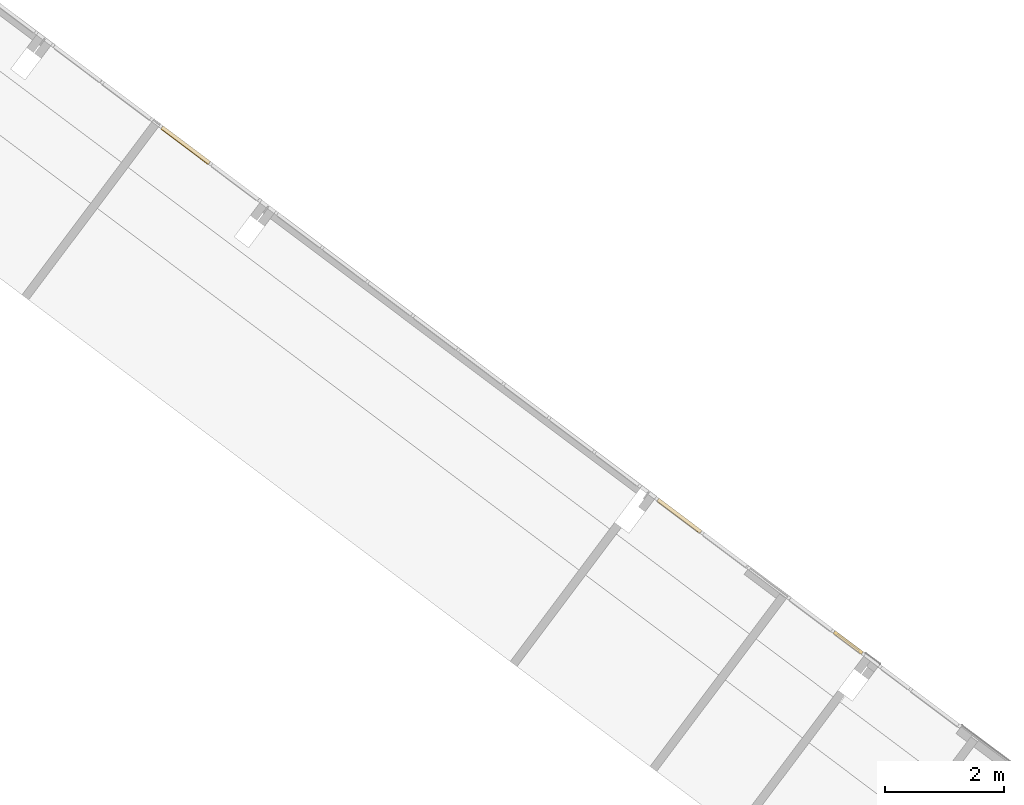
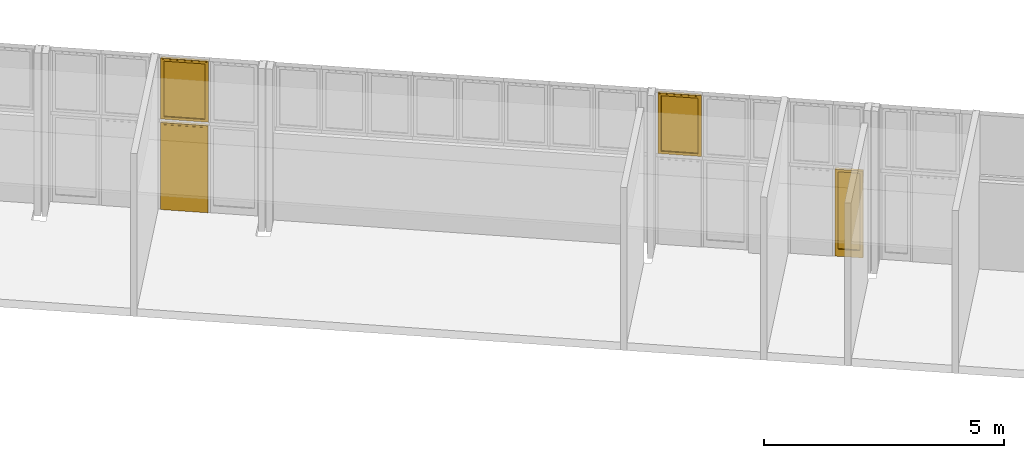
# One storey, part 14 of 18: 3 windows, 1 door, 3 elements without a shape of their own.
"""IFC2X3 building model written with IfcOpenShell, lengths in metres."""

from ifc_helpers import new_model, entity, si_unit, converted_unit, derived_unit, direction, frame, origin, place, context, subcontext, project, spatial, faceted_brep, source, transform, mapped, material, material_list, type_object, type_shapes, element, aggregate, save


model = new_model("IFC2X3")

# Units and contexts
model_context = context("Model", 3, precision=1e-05, world=origin(), true_north=direction((6.123031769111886e-17, 1.0)))
body_context = subcontext(model_context, "Body", "Model", "MODEL_VIEW")
ifc_project = project(units=[si_unit("LENGTHUNIT", "METRE"), si_unit("AREAUNIT", "SQUARE_METRE"), si_unit("VOLUMEUNIT", "CUBIC_METRE"), converted_unit("PLANEANGLEUNIT", "DEGREE", entity("IfcRatioMeasure", 0.017453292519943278), si_unit("PLANEANGLEUNIT", "RADIAN"), dimensions=[0, 0, 0, 0, 0, 0, 0]), si_unit("MASSUNIT", "GRAM", prefix="KILO"), derived_unit("MASSDENSITYUNIT", [(si_unit("MASSUNIT", "GRAM", prefix="KILO"), 1), (si_unit("LENGTHUNIT", "METRE"), -3)]), derived_unit("IONCONCENTRATIONUNIT", [(si_unit("MASSUNIT", "GRAM", prefix="KILO"), 1), (si_unit("LENGTHUNIT", "METRE"), -3)]), derived_unit("MOMENTOFINERTIAUNIT", [(si_unit("LENGTHUNIT", "METRE"), 4)]), si_unit("TIMEUNIT", "SECOND"), si_unit("FREQUENCYUNIT", "HERTZ"), si_unit("THERMODYNAMICTEMPERATUREUNIT", "DEGREE_CELSIUS"), derived_unit("THERMALTRANSMITTANCEUNIT", [(si_unit("MASSUNIT", "GRAM", prefix="KILO"), 1), (si_unit("THERMODYNAMICTEMPERATUREUNIT", "KELVIN"), -1), (si_unit("TIMEUNIT", "SECOND"), -3)]), derived_unit("THERMALCONDUCTANCEUNIT", [(si_unit("MASSUNIT", "GRAM", prefix="KILO"), 1), (si_unit("THERMODYNAMICTEMPERATUREUNIT", "KELVIN"), -1), (si_unit("TIMEUNIT", "SECOND"), -3), (si_unit("LENGTHUNIT", "METRE"), 1)]), derived_unit("VOLUMETRICFLOWRATEUNIT", [(si_unit("LENGTHUNIT", "METRE"), 3), (si_unit("TIMEUNIT", "SECOND"), -1)]), derived_unit("MASSFLOWRATEUNIT", [(si_unit("MASSUNIT", "GRAM", prefix="KILO"), 1), (si_unit("TIMEUNIT", "SECOND"), -1)]), derived_unit("ROTATIONALFREQUENCYUNIT", [(si_unit("TIMEUNIT", "SECOND"), -1)]), si_unit("ELECTRICCURRENTUNIT", "AMPERE"), si_unit("ELECTRICVOLTAGEUNIT", "VOLT"), si_unit("POWERUNIT", "WATT"), si_unit("FORCEUNIT", "NEWTON", prefix="KILO"), si_unit("ILLUMINANCEUNIT", "LUX"), si_unit("LUMINOUSFLUXUNIT", "LUMEN"), si_unit("LUMINOUSINTENSITYUNIT", "CANDELA"), derived_unit("USERDEFINED", [(si_unit("MASSUNIT", "GRAM", prefix="KILO"), -1), (si_unit("LENGTHUNIT", "METRE"), -2), (si_unit("TIMEUNIT", "SECOND"), 3), (si_unit("LUMINOUSFLUXUNIT", "LUMEN"), 1)]), derived_unit("USERDEFINED", [(si_unit("MASSUNIT", "GRAM", prefix="KILO"), 1), (si_unit("TIMEUNIT", "SECOND"), -3), (si_unit("LENGTHUNIT", "METRE"), 3), (si_unit("ELECTRICCURRENTUNIT", "AMPERE"), -2)]), derived_unit("SOUNDPOWERUNIT", [(si_unit("MASSUNIT", "GRAM", prefix="KILO"), 1), (si_unit("TIMEUNIT", "SECOND"), -3), (si_unit("LENGTHUNIT", "METRE"), 2)]), derived_unit("SOUNDPRESSUREUNIT", [(si_unit("MASSUNIT", "GRAM", prefix="KILO"), 1), (si_unit("LENGTHUNIT", "METRE"), -1), (si_unit("TIMEUNIT", "SECOND"), -2)]), derived_unit("LINEARVELOCITYUNIT", [(si_unit("LENGTHUNIT", "METRE"), 1), (si_unit("TIMEUNIT", "SECOND"), -1)]), si_unit("PRESSUREUNIT", "PASCAL"), derived_unit("USERDEFINED", [(si_unit("MASSUNIT", "GRAM", prefix="KILO"), 1), (si_unit("LENGTHUNIT", "METRE"), -2), (si_unit("TIMEUNIT", "SECOND"), -2)]), derived_unit("LINEARFORCEUNIT", [(si_unit("MASSUNIT", "GRAM", prefix="KILO"), 1), (si_unit("TIMEUNIT", "SECOND"), -2)]), derived_unit("PLANARFORCEUNIT", [(si_unit("MASSUNIT", "GRAM", prefix="KILO"), 1), (si_unit("LENGTHUNIT", "METRE"), -1), (si_unit("TIMEUNIT", "SECOND"), -2)]), derived_unit("SPECIFICHEATCAPACITYUNIT", [(si_unit("THERMODYNAMICTEMPERATUREUNIT", "KELVIN"), -1), (si_unit("LENGTHUNIT", "METRE"), 2), (si_unit("TIMEUNIT", "SECOND"), -2)]), derived_unit("HEATINGVALUEUNIT", [(si_unit("LENGTHUNIT", "METRE"), 2), (si_unit("TIMEUNIT", "SECOND"), -2)]), derived_unit("VAPORPERMEABILITYUNIT", [(si_unit("LENGTHUNIT", "METRE"), -1), (si_unit("TIMEUNIT", "SECOND"), 1)]), derived_unit("DYNAMICVISCOSITYUNIT", [(si_unit("MASSUNIT", "GRAM", prefix="KILO"), 1), (si_unit("TIMEUNIT", "SECOND"), -1), (si_unit("LENGTHUNIT", "METRE"), -1)]), derived_unit("THERMALEXPANSIONCOEFFICIENTUNIT", [(si_unit("THERMODYNAMICTEMPERATUREUNIT", "KELVIN"), -1)]), derived_unit("MODULUSOFELASTICITYUNIT", [(si_unit("MASSUNIT", "GRAM", prefix="KILO"), 1), (si_unit("LENGTHUNIT", "METRE"), -1), (si_unit("TIMEUNIT", "SECOND"), -2)]), derived_unit("ISOTHERMALMOISTURECAPACITYUNIT", [(si_unit("LENGTHUNIT", "METRE"), 3), (si_unit("MASSUNIT", "GRAM", prefix="KILO"), -1)]), derived_unit("MOISTUREDIFFUSIVITYUNIT", [(si_unit("TIMEUNIT", "SECOND"), -1), (si_unit("LENGTHUNIT", "METRE"), 2)])], contexts=[model_context])

# Site, building, storey
site_placement = place(None, frame((0.0, 0.0, 235.0), z_axis=(0.0, 0.0, 1.0), x_axis=(-0.7996477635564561, 0.6004693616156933, 0.0)))
site = spatial("IfcSite", under=ifc_project, at=site_placement, Name="Default", CompositionType="ELEMENT")
building_placement = place(site_placement, origin())
building = spatial("IfcBuilding", under=site, at=building_placement, CompositionType="ELEMENT")
storey_placement = place(building_placement, frame((0.0, 0.0, -4.459999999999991)))
storey = spatial("IfcBuildingStorey", under=building, at=storey_placement, Name="PS1- Vestuari", CompositionType="ELEMENT", Elevation=-4.459999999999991)

# Curtain wall, windows
curtain_wall_type = type_object("IfcCurtainWallType", Name="Muro cortina:MC- EXT- AL6", PredefinedType="NOTDEFINED")
curtain_wall_1_placement = place(storey_placement, frame((0.0, 0.0, 4.459999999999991)))
curtain_wall_1 = element("IfcCurtainWall", 1, at=curtain_wall_1_placement, inside=storey, type_object=curtain_wall_type, Name="Muro cortina:MC- EXT- AL6", ObjectType="Muro cortina:MC- EXT- AL6")
ifc_material_1 = material(Name="_Vidre")
ifc_material_2 = material(Name="_Alumini- T1- Perfil")
ifc_material_list_1 = material_list([ifc_material_1, ifc_material_2])
window_style_1 = type_object("IfcWindowStyle", Name="MC- Alu- Conjunt finestra basculant- 68x68 cm:MC- Alu- Conjunt finestra basculant- 68x68 cm", ConstructionType="NOTDEFINED", OperationType="NOTDEFINED", ParameterTakesPrecedence=False, Sizeable=False, material=ifc_material_list_1)
shared_shape_1 = source(origin(), body_context, "Body", "Brep", [
    faceted_brep([(0.40141171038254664, -0.035598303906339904, 0.051999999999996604), (-0.4014117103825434, -0.035598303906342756, 0.051999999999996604), (-0.4014117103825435, -0.011598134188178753, 0.051999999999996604), (0.4014117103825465, -0.011598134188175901, 0.051999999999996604), (0.40141171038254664, -0.035598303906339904, 1.4953027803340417), (0.4014117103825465, -0.011598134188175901, 1.4953027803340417), (-0.4014117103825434, -0.011598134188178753, 1.4953027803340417), (-0.4014117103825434, -0.035598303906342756, 1.4953027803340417)], [[[0, 1, 2, 3]], [[4, 0, 3, 5]], [[5, 3, 2, 6]], [[6, 2, 1, 7]], [[7, 1, 0, 4]], [[4, 5, 6, 7]]]),
    faceted_brep([(-0.3857108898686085, -0.009998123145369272, 1.4796019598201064), (-0.3857108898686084, -0.009998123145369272, 0.06789804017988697), (-0.3857108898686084, -0.0079981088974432, 0.06789804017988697), (-0.3857108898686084, -0.0079981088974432, 1.4796019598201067), (-0.4146089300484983, -0.007998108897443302, 1.5084999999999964), (0.4146089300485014, -0.007998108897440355, 1.5084999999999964), (0.4146089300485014, -0.007998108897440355, 0.03899999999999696), (-0.4146089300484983, -0.007998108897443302, 0.03899999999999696), (0.3857108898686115, -0.007998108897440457, 1.4796019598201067), (0.3857108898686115, -0.007998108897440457, 0.06789804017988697), (0.3857108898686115, -0.00999812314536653, 0.06789804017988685), (0.38571088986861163, -0.00999812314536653, 1.4796019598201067), (0.4014117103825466, -0.009998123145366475, 1.4953027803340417), (-0.4014117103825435, -0.009998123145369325, 1.4953027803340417), (-0.4014117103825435, -0.009998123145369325, 0.05219721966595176), (0.4014117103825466, -0.009998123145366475, 0.05219721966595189), (-0.4014117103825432, -0.040799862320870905, 1.4953027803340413), (-0.40141171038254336, -0.04079986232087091, 0.05219721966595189), (0.40141171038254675, -0.040799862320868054, 0.05219721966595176), (0.40141171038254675, -0.040799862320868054, 1.4953027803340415), (0.38571088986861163, -0.04079986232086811, 1.4796019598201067), (-0.38571088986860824, -0.04079986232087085, 1.4796019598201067), (-0.38571088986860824, -0.04079986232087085, 0.06789804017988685), (0.38571088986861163, -0.04079986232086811, 0.06789804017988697), (-0.3857108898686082, -0.06800005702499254, 1.4796019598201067), (-0.3857108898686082, -0.06800005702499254, 0.06789804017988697), (0.3857108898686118, -0.0680000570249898, 0.06789804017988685), (0.3857108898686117, -0.0680000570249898, 1.4796019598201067), (0.4321128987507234, -0.06800005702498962, 1.5260039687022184), (-0.4321128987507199, -0.0680000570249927, 1.5260039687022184), (-0.4321128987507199, -0.0680000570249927, 0.021496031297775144), (0.4321128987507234, -0.06800005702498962, 0.021496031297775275), (-0.4321128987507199, -0.06450003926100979, 1.5260039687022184), (-0.4321128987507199, -0.06450003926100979, 0.021496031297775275), (0.4321128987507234, -0.06450003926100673, 0.021496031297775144), (0.4321128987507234, -0.06450003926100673, 1.5260039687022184), (0.4146089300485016, -0.0645000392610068, 1.5084999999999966), (-0.4146089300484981, -0.06450003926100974, 1.5084999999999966), (-0.4146089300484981, -0.06450003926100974, 0.03899999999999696), (0.4146089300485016, -0.0645000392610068, 0.03899999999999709)], [[[0, 1, 2, 3]], [[4, 5, 6, 7], [8, 3, 2, 9]], [[1, 10, 9, 2]], [[0, 11, 10, 1], [12, 13, 14, 15]], [[16, 17, 14, 13]], [[17, 18, 15, 14]], [[16, 19, 18, 17], [20, 21, 22, 23]], [[24, 25, 22, 21]], [[25, 26, 23, 22]], [[24, 27, 26, 25], [28, 29, 30, 31]], [[32, 33, 30, 29]], [[33, 34, 31, 30]], [[32, 35, 34, 33], [36, 37, 38, 39]], [[4, 7, 38, 37]], [[7, 6, 39, 38]], [[10, 11, 8, 9]], [[18, 19, 12, 15]], [[26, 27, 20, 23]], [[34, 35, 28, 31]], [[6, 5, 36, 39]], [[11, 0, 3, 8]], [[19, 16, 13, 12]], [[27, 24, 21, 20]], [[35, 32, 29, 28]], [[5, 4, 37, 36]]], outer=[[True], [True, False], [True], [False, True], [True], [True], [True, False], [True], [True], [False, True], [True], [True], [True, False], [True], [True], [True], [True], [True], [True], [True], [True], [True], [True], [True], [True]]),
    faceted_brep([(0.39069318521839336, 0.0, 1.484693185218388), (0.39069318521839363, 0.0, 0.06280681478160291), (0.39069318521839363, -0.0040000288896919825, 0.06280681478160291), (0.39069318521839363, -0.0040000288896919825, 1.4846931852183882), (-0.39069318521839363, -0.0040000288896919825, 1.4846931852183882), (-0.39069318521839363, -0.0040000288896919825, 0.06280681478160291), (0.4260998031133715, -0.0040000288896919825, 1.5200998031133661), (-0.4260998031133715, -0.0040000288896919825, 1.5200998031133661), (-0.4260998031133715, -0.0040000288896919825, 0.02740019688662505), (0.4260998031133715, -0.0040000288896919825, 0.027400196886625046), (-0.39069318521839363, 0.0, 0.06280681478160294), (-0.39069318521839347, 0.0, 1.4846931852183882), (-0.45349999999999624, 0.0, 1.547499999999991), (0.45349999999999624, 0.0, 1.547499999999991), (0.45349999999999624, 0.0, 0.0), (-0.45349999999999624, 0.0, 0.0), (0.45349999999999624, -0.05999999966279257, 1.547499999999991), (0.45349999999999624, -0.05999999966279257, 0.0), (-0.45349999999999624, -0.05999999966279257, 0.0), (-0.45349999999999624, -0.05999999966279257, 1.547499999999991), (-0.4260998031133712, -0.05999999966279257, 1.520099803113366), (0.4260998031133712, -0.05999999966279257, 1.520099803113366), (0.4260998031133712, -0.05999999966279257, 0.02740019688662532), (-0.4260998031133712, -0.05999999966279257, 0.027400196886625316)], [[[0, 1, 2, 3]], [[4, 3, 2, 5], [6, 7, 8, 9]], [[1, 10, 5, 2]], [[0, 11, 10, 1], [12, 13, 14, 15]], [[16, 17, 14, 13]], [[17, 18, 15, 14]], [[16, 19, 18, 17], [20, 21, 22, 23]], [[6, 9, 22, 21]], [[9, 8, 23, 22]], [[10, 11, 4, 5]], [[18, 19, 12, 15]], [[8, 7, 20, 23]], [[11, 0, 3, 4]], [[19, 16, 13, 12]], [[7, 6, 21, 20]]], outer=[[True], [False, True], [True], [False, True], [True], [True], [True, False], [True], [True], [True], [True], [True], [True], [True], [True]]),
])
type_shapes(window_style_1, [shared_shape_1])
window_1_placement = place(curtain_wall_1_placement, frame((53.241647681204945, -40.465191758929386, -2.164999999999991), z_axis=(0.0, 0.0, 1.0), x_axis=(-1.0, 0.0, 0.0)))
window_1 = element("IfcWindow", 2, at=window_1_placement, type_object=window_style_1, material=ifc_material_list_1, Name="MC- Alu- Conjunt finestra basculant- 68x68 cm:MC- Alu- Conjunt finestra basculant- 68x68 cm", ObjectType="MC- Alu- Conjunt finestra basculant- 68x68 cm:MC- Alu- Conjunt finestra basculant- 68x68 cm", OverallHeight=1.5474999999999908, OverallWidth=0.906999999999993, context=body_context, shape_type="MappedRepresentation", body=[
    mapped(shared_shape_1, transform((0.0, 0.0, 0.0), scale=1.0)),
])
window_style_2 = type_object("IfcWindowStyle", Name="MC- Alu- Conjunt finestra basculant- 68x68 cm:MC- Alu- Conjunt finestra basculant- 68x68 cm", ConstructionType="NOTDEFINED", OperationType="NOTDEFINED", ParameterTakesPrecedence=False, Sizeable=False, material=ifc_material_list_1)
shared_shape_2 = source(origin(), body_context, "Body", "Brep", [
    faceted_brep([(0.4479117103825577, -0.03559830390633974, 0.051999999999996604), (-0.4479117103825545, -0.03559830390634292, 0.051999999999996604), (-0.44791171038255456, -0.011598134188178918, 0.051999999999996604), (0.4479117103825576, -0.011598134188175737, 0.051999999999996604), (0.4479117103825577, -0.03559830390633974, 1.4953027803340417), (0.4479117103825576, -0.011598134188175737, 1.4953027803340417), (-0.4479117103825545, -0.011598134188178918, 1.4953027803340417), (-0.4479117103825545, -0.03559830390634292, 1.4953027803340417)], [[[0, 1, 2, 3]], [[4, 0, 3, 5]], [[5, 3, 2, 6]], [[6, 2, 1, 7]], [[7, 1, 0, 4]], [[4, 5, 6, 7]]]),
    faceted_brep([(-0.4322108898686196, -0.009998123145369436, 1.4796019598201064), (-0.4322108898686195, -0.009998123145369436, 0.06789804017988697), (-0.4322108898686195, -0.007998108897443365, 0.06789804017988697), (-0.4322108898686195, -0.007998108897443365, 1.4796019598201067), (-0.4611089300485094, -0.007998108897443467, 1.5084999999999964), (0.4611089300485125, -0.00799810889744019, 1.5084999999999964), (0.4611089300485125, -0.00799810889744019, 0.03899999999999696), (-0.4611089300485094, -0.007998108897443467, 0.03899999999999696), (0.4322108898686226, -0.007998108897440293, 1.4796019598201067), (0.4322108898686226, -0.007998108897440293, 0.06789804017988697), (0.4322108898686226, -0.009998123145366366, 0.06789804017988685), (0.4322108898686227, -0.009998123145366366, 1.4796019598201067), (0.44791171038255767, -0.009998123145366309, 1.4953027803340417), (-0.44791171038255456, -0.009998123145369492, 1.4953027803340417), (-0.44791171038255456, -0.009998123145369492, 0.05219721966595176), (0.44791171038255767, -0.009998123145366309, 0.05219721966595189), (-0.4479117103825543, -0.04079986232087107, 1.4953027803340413), (-0.44791171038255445, -0.04079986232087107, 0.05219721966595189), (0.44791171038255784, -0.040799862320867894, 0.05219721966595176), (0.44791171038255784, -0.040799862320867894, 1.4953027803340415), (0.4322108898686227, -0.04079986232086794, 1.4796019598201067), (-0.43221088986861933, -0.04079986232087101, 1.4796019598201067), (-0.43221088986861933, -0.04079986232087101, 0.06789804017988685), (0.4322108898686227, -0.04079986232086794, 0.06789804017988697), (-0.4322108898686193, -0.0680000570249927, 1.4796019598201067), (-0.4322108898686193, -0.0680000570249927, 0.06789804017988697), (0.4322108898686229, -0.06800005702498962, 0.06789804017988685), (0.43221088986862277, -0.06800005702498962, 1.4796019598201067), (0.4786128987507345, -0.06800005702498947, 1.5260039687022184), (-0.478612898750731, -0.06800005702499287, 1.5260039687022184), (-0.478612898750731, -0.06800005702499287, 0.021496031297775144), (0.4786128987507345, -0.06800005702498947, 0.021496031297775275), (-0.478612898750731, -0.06450003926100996, 1.5260039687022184), (-0.478612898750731, -0.06450003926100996, 0.021496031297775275), (0.4786128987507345, -0.06450003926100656, 0.021496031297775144), (0.4786128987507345, -0.06450003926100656, 1.5260039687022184), (0.46110893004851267, -0.06450003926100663, 1.5084999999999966), (-0.46110893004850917, -0.06450003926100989, 1.5084999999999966), (-0.46110893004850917, -0.06450003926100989, 0.03899999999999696), (0.46110893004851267, -0.06450003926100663, 0.03899999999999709)], [[[0, 1, 2, 3]], [[4, 5, 6, 7], [8, 3, 2, 9]], [[1, 10, 9, 2]], [[0, 11, 10, 1], [12, 13, 14, 15]], [[16, 17, 14, 13]], [[17, 18, 15, 14]], [[16, 19, 18, 17], [20, 21, 22, 23]], [[24, 25, 22, 21]], [[25, 26, 23, 22]], [[24, 27, 26, 25], [28, 29, 30, 31]], [[32, 33, 30, 29]], [[33, 34, 31, 30]], [[32, 35, 34, 33], [36, 37, 38, 39]], [[4, 7, 38, 37]], [[7, 6, 39, 38]], [[10, 11, 8, 9]], [[18, 19, 12, 15]], [[26, 27, 20, 23]], [[34, 35, 28, 31]], [[6, 5, 36, 39]], [[11, 0, 3, 8]], [[19, 16, 13, 12]], [[27, 24, 21, 20]], [[35, 32, 29, 28]], [[5, 4, 37, 36]]], outer=[[True], [True, False], [True], [False, True], [True], [True], [True, False], [True], [True], [False, True], [True], [True], [True, False], [True], [True], [True], [True], [True], [True], [True], [True], [True], [True], [True], [True]]),
    faceted_brep([(0.43719318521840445, 0.0, 1.484693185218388), (0.4371931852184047, 0.0, 0.06280681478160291), (0.4371931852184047, -0.0040000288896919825, 0.06280681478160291), (0.4371931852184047, -0.0040000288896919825, 1.4846931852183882), (-0.4371931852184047, -0.0040000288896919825, 1.4846931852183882), (-0.4371931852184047, -0.0040000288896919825, 0.06280681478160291), (0.47259980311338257, -0.0040000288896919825, 1.5200998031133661), (-0.47259980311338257, -0.0040000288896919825, 1.5200998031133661), (-0.47259980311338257, -0.0040000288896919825, 0.027400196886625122), (0.47259980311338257, -0.0040000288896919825, 0.027400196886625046), (-0.4371931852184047, 0.0, 0.062806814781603), (-0.43719318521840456, 0.0, 1.4846931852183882), (-0.5000000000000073, 0.0, 1.547499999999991), (0.5000000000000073, 0.0, 1.547499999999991), (0.5000000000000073, 0.0, 0.0), (-0.5000000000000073, 0.0, 0.0), (0.5000000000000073, -0.05999999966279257, 1.547499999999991), (0.5000000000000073, -0.05999999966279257, 0.0), (-0.5000000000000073, -0.05999999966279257, 0.0), (-0.5000000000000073, -0.05999999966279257, 1.547499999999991), (-0.4725998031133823, -0.05999999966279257, 1.520099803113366), (0.4725998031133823, -0.05999999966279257, 1.520099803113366), (0.4725998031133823, -0.05999999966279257, 0.02740019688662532), (-0.4725998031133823, -0.05999999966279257, 0.027400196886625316)], [[[0, 1, 2, 3]], [[4, 3, 2, 5], [6, 7, 8, 9]], [[1, 10, 5, 2]], [[0, 11, 10, 1], [12, 13, 14, 15]], [[16, 17, 14, 13]], [[17, 18, 15, 14]], [[16, 19, 18, 17], [20, 21, 22, 23]], [[6, 9, 22, 21]], [[9, 8, 23, 22]], [[10, 11, 4, 5]], [[18, 19, 12, 15]], [[8, 7, 20, 23]], [[11, 0, 3, 4]], [[19, 16, 13, 12]], [[7, 6, 21, 20]]], outer=[[True], [False, True], [True], [False, True], [True], [True], [True, False], [True], [True], [True], [True], [True], [True], [True], [True]]),
])
type_shapes(window_style_2, [shared_shape_2])
window_2_placement = place(curtain_wall_1_placement, frame((63.62514768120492, -40.46519175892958, -2.164999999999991), z_axis=(0.0, 0.0, 1.0), x_axis=(-1.0, 0.0, 0.0)))
window_2 = element("IfcWindow", 3, at=window_2_placement, type_object=window_style_2, material=ifc_material_list_1, Name="MC- Alu- Conjunt finestra basculant- 68x68 cm:MC- Alu- Conjunt finestra basculant- 68x68 cm", ObjectType="MC- Alu- Conjunt finestra basculant- 68x68 cm:MC- Alu- Conjunt finestra basculant- 68x68 cm", OverallHeight=1.5474999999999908, OverallWidth=1.0000000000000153, context=body_context, shape_type="MappedRepresentation", body=[
    mapped(shared_shape_2, transform((0.0, 0.0, 0.0), scale=1.0)),
])
aggregate(curtain_wall_1, [window_1, window_2])

# Curtain wall, door
curtain_wall_2_placement = place(storey_placement, frame((0.0, 0.0, 4.459999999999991)))
curtain_wall_2 = element("IfcCurtainWall", 4, at=curtain_wall_2_placement, inside=storey, type_object=curtain_wall_type, Name="Muro cortina:MC- EXT- AL6", ObjectType="Muro cortina:MC- EXT- AL6")
door_style = type_object("IfcDoorStyle", Name="MC- Alu- Conjunt porta- 70x60 cm- opacat:MC- Alu- Conjunt porta- 70x60 cm- opacat", ConstructionType="NOTDEFINED", OperationType="NOTDEFINED", ParameterTakesPrecedence=False, Sizeable=False, material=ifc_material_2)
shared_shape_3 = source(origin(), body_context, "Body", "Brep", [
    faceted_brep([(-0.4214748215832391, -2.945720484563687e-07, 0.02800000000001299), (0.4214748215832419, -2.9457204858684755e-07, 0.02800000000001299), (0.42147482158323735, -0.015000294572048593, 0.02800000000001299), (-0.4214748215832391, -0.015000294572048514, 0.02800000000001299), (-0.4214748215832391, -2.945720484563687e-07, 2.1326418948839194), (-0.4214748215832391, -0.015000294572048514, 2.1326418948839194), (0.42147482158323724, -0.015000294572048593, 2.1326418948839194), (0.4214748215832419, -2.94572048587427e-07, 2.1326418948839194)], [[[0, 1, 2, 3]], [[4, 0, 3, 5]], [[5, 3, 2, 6]], [[6, 2, 1, 7]], [[7, 1, 0, 4]], [[4, 5, 6, 7]]]),
    faceted_brep([(-0.42147482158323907, -0.06999999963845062, 0.02800000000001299), (-0.4214748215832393, -0.05499999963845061, 0.02800000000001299), (0.42147482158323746, -0.05499999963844, 0.02800000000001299), (0.42147482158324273, -0.06999999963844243, 0.02800000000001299), (-0.42147482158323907, -0.06999999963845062, 2.1326418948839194), (0.42147482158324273, -0.06999999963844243, 2.1326418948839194), (0.42147482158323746, -0.05499999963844, 2.1326418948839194), (-0.42147482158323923, -0.05499999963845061, 2.1326418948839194)], [[[0, 1, 2, 3]], [[4, 0, 3, 5]], [[5, 3, 2, 6]], [[6, 2, 1, 7]], [[7, 1, 0, 4]], [[4, 5, 6, 7]]]),
    faceted_brep([(-0.4494748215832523, -0.06570000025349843, 2.1606418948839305), (-0.4494748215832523, -0.06570000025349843, 0.0), (-0.4494748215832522, -0.06999999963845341, 0.0), (-0.4494748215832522, -0.0699999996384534, 2.160641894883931), (0.4494748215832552, -0.06999999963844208, 0.0), (0.4494748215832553, -0.06999999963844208, 2.160641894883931), (-0.4214748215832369, -0.06999999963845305, 0.028000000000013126), (-0.42147482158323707, -0.06999999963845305, 2.132641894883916), (0.4214748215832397, -0.06999999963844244, 2.132641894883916), (0.4214748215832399, -0.06999999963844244, 0.028000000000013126), (0.4494748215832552, -0.06570000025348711, 0.0), (0.4494748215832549, -0.06570000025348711, 2.1606418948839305), (-0.4254748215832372, -0.06570000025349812, 2.1366418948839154), (-0.4254748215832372, -0.06570000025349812, 0.024000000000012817), (0.42547482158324, -0.06570000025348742, 0.024000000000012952), (0.4254748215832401, -0.06570000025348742, 2.136641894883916), (-0.42547482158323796, -2.9457205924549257e-07, 2.1366418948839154), (-0.4254748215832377, -2.9457205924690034e-07, 0.02400000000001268), (0.4254748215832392, -2.945720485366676e-07, 0.024000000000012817), (0.42547482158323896, -2.945720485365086e-07, 2.136641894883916), (-0.4214748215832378, -2.9457205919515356e-07, 2.132641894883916), (-0.4214748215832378, -2.9457205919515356e-07, 0.02800000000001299), (0.421474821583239, -2.9457204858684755e-07, 0.028000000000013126), (0.4214748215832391, -2.9457204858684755e-07, 2.132641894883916)], [[[0, 1, 2, 3]], [[3, 2, 4, 5], [6, 7, 8, 9]], [[1, 10, 4, 2]], [[1, 0, 11, 10], [12, 13, 14, 15]], [[16, 17, 13, 12]], [[17, 18, 14, 13]], [[17, 16, 19, 18], [20, 21, 22, 23]], [[10, 11, 5, 4]], [[18, 19, 15, 14]], [[7, 6, 21, 20]], [[6, 9, 22, 21]], [[9, 8, 23, 22]], [[11, 0, 3, 5]], [[8, 7, 20, 23]], [[19, 16, 12, 15]]]),
    faceted_brep([(-0.49877482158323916, -0.06999999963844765, 0.0), (-0.49877482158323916, 0.0, 0.0), (-0.4314748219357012, 0.0, 0.0), (-0.4314748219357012, -0.008800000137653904, 0.0), (-0.4469747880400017, -0.008800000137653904, 0.0), (-0.4469747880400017, -0.059699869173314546, 0.0), (-0.45747482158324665, -0.059699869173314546, 0.0), (-0.45747482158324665, -0.06999999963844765, 0.0), (-0.45747482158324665, -0.06999999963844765, 2.1686418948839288), (0.45747482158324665, -0.06999999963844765, 2.1686418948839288), (0.45747482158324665, -0.06999999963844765, 0.0), (0.49877482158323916, -0.06999999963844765, 0.0), (0.49877482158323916, -0.06999999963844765, 2.2099418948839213), (-0.4987748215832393, -0.06999999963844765, 2.2099418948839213), (-0.45747482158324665, -0.059699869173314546, 2.1686418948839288), (-0.4469747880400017, -0.059699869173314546, 2.1581418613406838), (0.4469747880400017, -0.059699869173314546, 2.1581418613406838), (0.4469747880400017, -0.059699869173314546, 0.0), (0.45747482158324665, -0.059699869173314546, 0.0), (0.45747482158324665, -0.059699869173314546, 2.1686418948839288), (-0.4469747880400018, -0.008800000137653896, 2.1581418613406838), (-0.43147482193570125, -0.008800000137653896, 2.1426418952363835), (0.4314748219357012, -0.008800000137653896, 2.1426418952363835), (0.4314748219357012, -0.008800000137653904, 0.0), (0.4469747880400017, -0.008800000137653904, 0.0), (0.4469747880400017, -0.008800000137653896, 2.1581418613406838), (-0.4314748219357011, 0.0, 2.1426418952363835), (-0.49877482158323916, 0.0, 2.2099418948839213), (0.49877482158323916, 0.0, 2.2099418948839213), (0.49877482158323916, 0.0, 0.0), (0.4314748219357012, 0.0, 0.0), (0.4314748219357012, 0.0, 2.1426418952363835)], [[[0, 1, 2, 3, 4, 5, 6, 7]], [[7, 8, 9, 10, 11, 12, 13, 0]], [[6, 14, 8, 7]], [[5, 15, 16, 17, 18, 19, 14, 6]], [[4, 20, 15, 5]], [[3, 21, 22, 23, 24, 25, 20, 4]], [[2, 26, 21, 3]], [[1, 27, 28, 29, 30, 31, 26, 2]], [[0, 13, 27, 1]], [[11, 10, 18, 17, 24, 23, 30, 29]], [[12, 11, 29, 28]], [[31, 30, 23, 22]], [[25, 24, 17, 16]], [[19, 18, 10, 9]], [[14, 19, 9, 8]], [[20, 25, 16, 15]], [[26, 31, 22, 21]], [[13, 12, 28, 27]]]),
])
type_shapes(door_style, [shared_shape_3])
door_placement = place(curtain_wall_2_placement, frame((63.62637285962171, -40.46519175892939, -4.459999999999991), z_axis=(0.0, 0.0, 1.0), x_axis=(-1.0, 0.0, 0.0)))
door = element("IfcDoor", 5, at=door_placement, type_object=door_style, material=ifc_material_2, Name="MC- Alu- Conjunt porta- 70x60 cm- opacat:MC- Alu- Conjunt porta- 70x60 cm- opacat", ObjectType="MC- Alu- Conjunt porta- 70x60 cm- opacat:MC- Alu- Conjunt porta- 70x60 cm- opacat", OverallHeight=2.209941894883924, OverallWidth=0.9975496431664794, context=body_context, shape_type="MappedRepresentation", body=[
    mapped(shared_shape_3, transform((0.0, 0.0, 0.0), scale=1.0)),
])
aggregate(curtain_wall_2, [door])

# Curtain wall, window
curtain_wall_3_placement = place(storey_placement, frame((0.0, 0.0, 4.459999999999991)))
curtain_wall_3 = element("IfcCurtainWall", 6, at=curtain_wall_3_placement, inside=storey, type_object=curtain_wall_type, Name="Muro cortina:MC- EXT- AL6", ObjectType="Muro cortina:MC- EXT- AL6")
ifc_material_list_2 = material_list([ifc_material_2, ifc_material_1])
window_style_3 = type_object("IfcWindowStyle", Name="MC- Alu- Conjunt vidre fix- 62x60 cm- +15cm:MC- Alu- Conjunt vidre fix- 62x60 cm- +15cm", ConstructionType="NOTDEFINED", OperationType="NOTDEFINED", ParameterTakesPrecedence=False, Sizeable=False, material=ifc_material_list_2)
shared_shape_4 = source(origin(), body_context, "Body", "Brep", [
    faceted_brep([(-0.2959999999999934, -0.05999999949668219, 0.0), (-0.2959999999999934, -0.05999999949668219, 2.209941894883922), (-0.2959999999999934, 0.0, 2.2099418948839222), (-0.2959999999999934, 0.0, 0.0), (0.2959999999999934, 0.0, 0.0), (0.2959999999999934, -0.05999999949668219, 0.0), (0.23319318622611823, 0.0, 0.18000284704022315), (0.2331931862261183, 0.0, 2.1471350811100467), (-0.2331931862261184, 0.0, 2.1471350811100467), (-0.2331931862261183, 0.0, 0.1800028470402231), (0.2959999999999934, 0.0, 2.209941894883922), (0.2959999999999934, -0.05999999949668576, 2.209941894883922), (-0.23319603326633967, -0.05999999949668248, 0.18000000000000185), (-0.23319603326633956, -0.05999999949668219, 2.147137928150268), (0.23319603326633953, -0.05999999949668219, 2.147137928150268), (0.23319603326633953, -0.05999999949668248, 0.18000000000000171), (-0.2331931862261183, -0.00760005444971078, 0.180002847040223), (0.23319318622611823, -0.007600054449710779, 0.18000284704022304), (-0.2331931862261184, -0.007600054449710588, 2.1471350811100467), (0.2331931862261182, -0.007600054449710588, 2.1471350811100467), (-0.24719328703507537, -0.007600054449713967, 2.161135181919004), (-0.2471932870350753, -0.0076000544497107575, 0.16619603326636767), (0.2471932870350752, -0.0076000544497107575, 0.16619603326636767), (0.24719328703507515, -0.007600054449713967, 2.161135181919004), (0.2471932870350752, -0.03160022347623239, 0.16619603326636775), (0.24719328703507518, -0.03160022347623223, 2.1611351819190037), (-0.2471932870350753, -0.03160022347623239, 0.16619603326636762), (-0.24719328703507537, -0.03160022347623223, 2.161135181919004), (0.23319603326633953, -0.03160022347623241, 0.18000000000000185), (0.23319603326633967, -0.03160022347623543, 2.147137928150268), (-0.2331960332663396, -0.03160022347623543, 2.147137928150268), (-0.23319603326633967, -0.03160022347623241, 0.1800000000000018)], [[[0, 1, 2, 3]], [[4, 5, 0, 3]], [[6, 7, 8, 9], [2, 10, 4, 3]], [[0, 5, 11, 1], [12, 13, 14, 15]], [[11, 5, 4, 10]], [[9, 16, 17, 6]], [[18, 16, 9, 8]], [[7, 6, 17, 19]], [[16, 18, 19, 17], [20, 21, 22, 23]], [[22, 24, 25, 23]], [[21, 26, 24, 22]], [[26, 21, 20, 27]], [[25, 24, 26, 27], [28, 29, 30, 31]], [[31, 12, 15, 28]], [[13, 12, 31, 30]], [[29, 28, 15, 14]], [[1, 11, 10, 2]], [[8, 7, 19, 18]], [[20, 23, 25, 27]], [[30, 29, 14, 13]]], outer=[[True], [True], [False, True], [True, False], [True], [True], [True], [True], [False, True], [True], [True], [True], [True, False], [True], [True], [True], [True], [True], [True], [True]]),
    faceted_brep([(0.2471932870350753, -0.007600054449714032, 0.1661960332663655), (0.2471932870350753, -0.03160022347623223, 0.1661960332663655), (-0.247193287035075, -0.03160022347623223, 0.1661960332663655), (-0.247193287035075, -0.007600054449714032, 0.1661960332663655), (0.2471932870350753, -0.007600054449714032, 2.160941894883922), (-0.247193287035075, -0.007600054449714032, 2.160941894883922), (-0.247193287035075, -0.03160022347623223, 2.160941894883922), (0.2471932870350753, -0.03160022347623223, 2.160941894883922)], [[[0, 1, 2, 3]], [[4, 0, 3, 5]], [[5, 3, 2, 6]], [[6, 2, 1, 7]], [[7, 1, 0, 4]], [[4, 5, 6, 7]]]),
])
type_shapes(window_style_3, [shared_shape_4])
window_3_placement = place(curtain_wall_3_placement, frame((49.691147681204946, -40.46519175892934, -4.459999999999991), z_axis=(0.0, 0.0, 1.0), x_axis=(-1.0, 0.0, 0.0)))
window_3 = element("IfcWindow", 7, at=window_3_placement, type_object=window_style_3, material=ifc_material_list_2, Name="MC- Alu- Conjunt vidre fix- 62x60 cm- +15cm:MC- Alu- Conjunt vidre fix- 62x60 cm- +15cm", ObjectType="MC- Alu- Conjunt vidre fix- 62x60 cm- +15cm:MC- Alu- Conjunt vidre fix- 62x60 cm- +15cm", OverallHeight=2.209941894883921, OverallWidth=0.5919999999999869, context=body_context, shape_type="MappedRepresentation", body=[
    mapped(shared_shape_4, transform((0.0, 0.0, 0.0), scale=1.0)),
])
aggregate(curtain_wall_3, [window_3])

save(model, "model.ifc")
